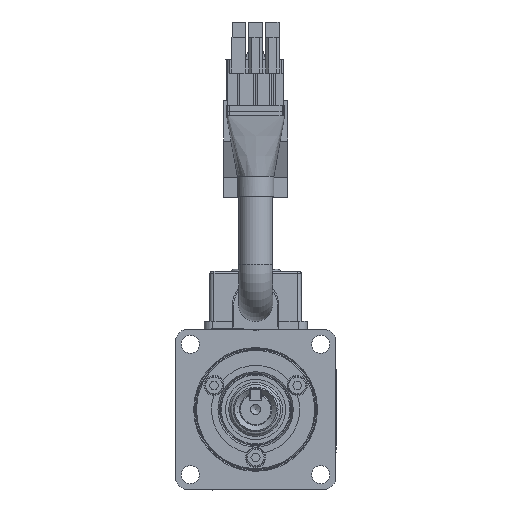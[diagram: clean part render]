
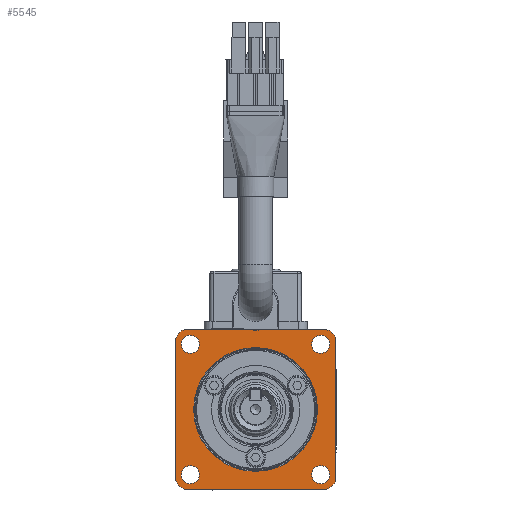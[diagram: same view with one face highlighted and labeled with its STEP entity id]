
A CAD part, left-side view. The second image highlights one B-rep face of the part: STEP entity #5545.
In plain terms, the highlighted planar face has unit normal (-1, 0, 0) as drawn and (0, -1, 0) by its records, which use the part's own axes.
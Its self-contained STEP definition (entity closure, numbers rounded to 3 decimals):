
#5545 = ADVANCED_FACE( '', ( #11300, #11301, #11302, #11303, #11304, #11305 ), #11306, .T. );
#11300 = FACE_BOUND( '', #20981, .T. );
#11301 = FACE_OUTER_BOUND( '', #20982, .T. );
#11302 = FACE_BOUND( '', #20983, .T. );
#11303 = FACE_BOUND( '', #20984, .T. );
#11304 = FACE_BOUND( '', #20985, .T. );
#11305 = FACE_BOUND( '', #20986, .T. );
#11306 = PLANE( '', #20987 );
#20981 = EDGE_LOOP( '', ( #35997 ) );
#20982 = EDGE_LOOP( '', ( #35998, #35999, #36000, #36001, #36002, #36003, #36004, #36005 ) );
#20983 = EDGE_LOOP( '', ( #36006 ) );
#20984 = EDGE_LOOP( '', ( #36007 ) );
#20985 = EDGE_LOOP( '', ( #36008 ) );
#20986 = EDGE_LOOP( '', ( #36009 ) );
#20987 = AXIS2_PLACEMENT_3D( '', #36010, #36011, #36012 );
#35997 = ORIENTED_EDGE( '', *, *, #44288, .T. );
#35998 = ORIENTED_EDGE( '', *, *, #45562, .F. );
#35999 = ORIENTED_EDGE( '', *, *, #43979, .T. );
#36000 = ORIENTED_EDGE( '', *, *, #43289, .F. );
#36001 = ORIENTED_EDGE( '', *, *, #44596, .T. );
#36002 = ORIENTED_EDGE( '', *, *, #40524, .F. );
#36003 = ORIENTED_EDGE( '', *, *, #44969, .F. );
#36004 = ORIENTED_EDGE( '', *, *, #40083, .F. );
#36005 = ORIENTED_EDGE( '', *, *, #45240, .T. );
#36006 = ORIENTED_EDGE( '', *, *, #45563, .F. );
#36007 = ORIENTED_EDGE( '', *, *, #42040, .F. );
#36008 = ORIENTED_EDGE( '', *, *, #43534, .F. );
#36009 = ORIENTED_EDGE( '', *, *, #45038, .F. );
#36010 = CARTESIAN_POINT( '', ( 0., 0.5, 15.5 ) );
#36011 = DIRECTION( '', ( 0., -1., 0. ) );
#36012 = DIRECTION( '', ( 0., 0., -1. ) );
#40083 = EDGE_CURVE( '', #47257, #47260, #47261, .F. );
#40524 = EDGE_CURVE( '', #48060, #48063, #48064, .F. );
#42040 = EDGE_CURVE( '', #50616, #50616, #50617, .F. );
#43289 = EDGE_CURVE( '', #52591, #52594, #52595, .F. );
#43534 = EDGE_CURVE( '', #52946, #52946, #52947, .F. );
#43979 = EDGE_CURVE( '', #53590, #52594, #53591, .T. );
#44288 = EDGE_CURVE( '', #54011, #54011, #54012, .F. );
#44596 = EDGE_CURVE( '', #52591, #48063, #54412, .T. );
#44969 = EDGE_CURVE( '', #47260, #48060, #54884, .T. );
#45038 = EDGE_CURVE( '', #54972, #54972, #54973, .F. );
#45240 = EDGE_CURVE( '', #47257, #55213, #55215, .T. );
#45562 = EDGE_CURVE( '', #53590, #55213, #55586, .F. );
#45563 = EDGE_CURVE( '', #55587, #55587, #55588, .F. );
#47257 = VERTEX_POINT( '', #56635 );
#47260 = VERTEX_POINT( '', #56639 );
#47261 = CIRCLE( '', #56640, 3. );
#48060 = VERTEX_POINT( '', #58173 );
#48063 = VERTEX_POINT( '', #58177 );
#48064 = CIRCLE( '', #58178, 3. );
#50616 = VERTEX_POINT( '', #62372 );
#50617 = CIRCLE( '', #62373, 2.25 );
#52591 = VERTEX_POINT( '', #65974 );
#52594 = VERTEX_POINT( '', #65978 );
#52595 = CIRCLE( '', #65979, 3. );
#52946 = VERTEX_POINT( '', #66566 );
#52947 = CIRCLE( '', #66567, 2.25 );
#53590 = VERTEX_POINT( '', #67745 );
#53591 = LINE( '', #67746, #67747 );
#54011 = VERTEX_POINT( '', #68440 );
#54012 = CIRCLE( '', #68441, 15.45 );
#54412 = LINE( '', #69192, #69193 );
#54884 = LINE( '', #69922, #69923 );
#54972 = VERTEX_POINT( '', #70042 );
#54973 = CIRCLE( '', #70043, 2.25 );
#55213 = VERTEX_POINT( '', #70463 );
#55215 = LINE( '', #70466, #70467 );
#55586 = CIRCLE( '', #71112, 3. );
#55587 = VERTEX_POINT( '', #71113 );
#55588 = CIRCLE( '', #71114, 2.25 );
#56635 = CARTESIAN_POINT( '', ( 20., 0.5, -17. ) );
#56639 = CARTESIAN_POINT( '', ( 17., 0.5, -20. ) );
#56640 = AXIS2_PLACEMENT_3D( '', #72667, #72668, #72669 );
#58173 = CARTESIAN_POINT( '', ( -17., 0.5, -20. ) );
#58177 = CARTESIAN_POINT( '', ( -20., 0.5, -17. ) );
#58178 = AXIS2_PLACEMENT_3D( '', #73166, #73167, #73168 );
#62372 = CARTESIAN_POINT( '', ( 16.263, 0.5, -14.013 ) );
#62373 = AXIS2_PLACEMENT_3D( '', #74869, #74870, #74871 );
#65974 = CARTESIAN_POINT( '', ( -20., 0.5, 17. ) );
#65978 = CARTESIAN_POINT( '', ( -17., 0.5, 20. ) );
#65979 = AXIS2_PLACEMENT_3D( '', #76229, #76230, #76231 );
#66566 = CARTESIAN_POINT( '', ( -16.263, 0.5, -14.013 ) );
#66567 = AXIS2_PLACEMENT_3D( '', #76476, #76477, #76478 );
#67745 = CARTESIAN_POINT( '', ( 17., 0.5, 20. ) );
#67746 = CARTESIAN_POINT( '', ( 20., 0.5, 20. ) );
#67747 = VECTOR( '', #76977, 1000. );
#68440 = CARTESIAN_POINT( '', ( 0., 0.5, -15.45 ) );
#68441 = AXIS2_PLACEMENT_3D( '', #77266, #77267, #77268 );
#69192 = CARTESIAN_POINT( '', ( -20., 0.5, 20. ) );
#69193 = VECTOR( '', #77551, 1000. );
#69922 = CARTESIAN_POINT( '', ( -20., 0.5, -20. ) );
#69923 = VECTOR( '', #77900, 1000. );
#70042 = CARTESIAN_POINT( '', ( -16.263, 0.5, 18.513 ) );
#70043 = AXIS2_PLACEMENT_3D( '', #77963, #77964, #77965 );
#70463 = CARTESIAN_POINT( '', ( 20., 0.5, 17. ) );
#70466 = CARTESIAN_POINT( '', ( 20., 0.5, -20. ) );
#70467 = VECTOR( '', #78119, 1000. );
#71112 = AXIS2_PLACEMENT_3D( '', #78330, #78331, #78332 );
#71113 = CARTESIAN_POINT( '', ( 16.263, 0.5, 18.513 ) );
#71114 = AXIS2_PLACEMENT_3D( '', #78333, #78334, #78335 );
#72667 = CARTESIAN_POINT( '', ( 17., 0.5, -17. ) );
#72668 = DIRECTION( '', ( 0., -1., 0. ) );
#72669 = DIRECTION( '', ( 0., 0., -1. ) );
#73166 = CARTESIAN_POINT( '', ( -17., 0.5, -17. ) );
#73167 = DIRECTION( '', ( 0., -1., 0. ) );
#73168 = DIRECTION( '', ( 0., 0., -1. ) );
#74869 = CARTESIAN_POINT( '', ( 16.263, 0.5, -16.263 ) );
#74870 = DIRECTION( '', ( 0., 1., 0. ) );
#74871 = DIRECTION( '', ( 0., 0., 1. ) );
#76229 = CARTESIAN_POINT( '', ( -17., 0.5, 17. ) );
#76230 = DIRECTION( '', ( 0., -1., 0. ) );
#76231 = DIRECTION( '', ( 0., 0., -1. ) );
#76476 = CARTESIAN_POINT( '', ( -16.263, 0.5, -16.263 ) );
#76477 = DIRECTION( '', ( 0., 1., 0. ) );
#76478 = DIRECTION( '', ( 0., 0., 1. ) );
#76977 = DIRECTION( '', ( -1., 0., 0. ) );
#77266 = CARTESIAN_POINT( '', ( 0., 0.5, 0. ) );
#77267 = DIRECTION( '', ( 0., -1., 0. ) );
#77268 = DIRECTION( '', ( 0., 0., -1. ) );
#77551 = DIRECTION( '', ( 0., 0., -1. ) );
#77900 = DIRECTION( '', ( -1., 0., 0. ) );
#77963 = CARTESIAN_POINT( '', ( -16.263, 0.5, 16.263 ) );
#77964 = DIRECTION( '', ( 0., 1., 0. ) );
#77965 = DIRECTION( '', ( 0., 0., 1. ) );
#78119 = DIRECTION( '', ( 0., 0., 1. ) );
#78330 = CARTESIAN_POINT( '', ( 17., 0.5, 17. ) );
#78331 = DIRECTION( '', ( 0., -1., 0. ) );
#78332 = DIRECTION( '', ( 0., 0., -1. ) );
#78333 = CARTESIAN_POINT( '', ( 16.263, 0.5, 16.263 ) );
#78334 = DIRECTION( '', ( 0., 1., 0. ) );
#78335 = DIRECTION( '', ( 0., 0., 1. ) );
